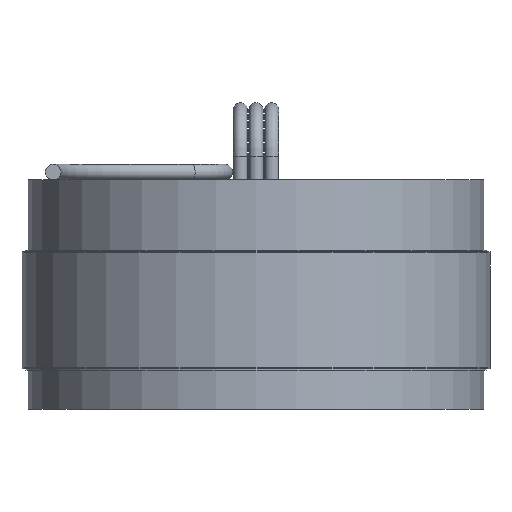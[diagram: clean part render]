
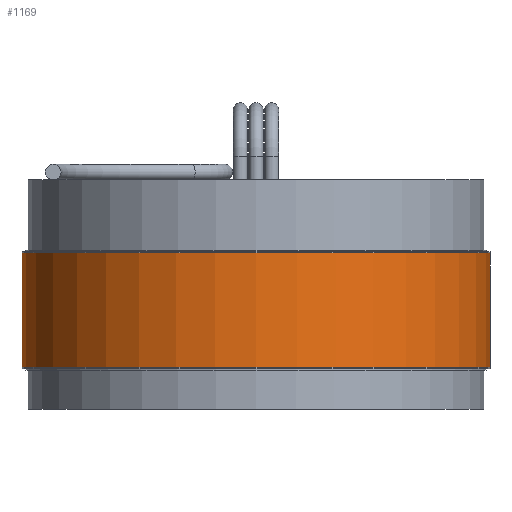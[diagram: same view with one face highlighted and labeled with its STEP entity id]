
A CAD part, front view. The second image highlights one B-rep face of the part: STEP entity #1169.
In plain terms, the highlighted cylindrical face has radius 38.1 mm (diameter 76.2 mm), a full revolution.
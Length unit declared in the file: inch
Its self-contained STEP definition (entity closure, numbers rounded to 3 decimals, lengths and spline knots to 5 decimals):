
#20 = CARTESIAN_POINT ( 'NONE',  ( 0., 0., -0.36713 ) ) ;
#44 = DIRECTION ( 'NONE',  ( 0., 0., 1. ) ) ;
#127 = CARTESIAN_POINT ( 'NONE',  ( 0., 0., -0.385 ) ) ;
#146 = CARTESIAN_POINT ( 'NONE',  ( 0., 0., 0.36713 ) ) ;
#344 = AXIS2_PLACEMENT_3D ( 'NONE', #127, #347, #799 ) ;
#347 = DIRECTION ( 'NONE',  ( 0., 0., 1. ) ) ;
#497 = CARTESIAN_POINT ( 'NONE',  ( 1.5, 0., 0.36713 ) ) ;
#579 = FACE_OUTER_BOUND ( 'NONE', #1400, .T. ) ;
#616 = VERTEX_POINT ( 'NONE', #1025 ) ;
#637 = EDGE_CURVE ( 'NONE', #616, #616, #1310, .T. ) ;
#696 = EDGE_LOOP ( 'NONE', ( #1109 ) ) ;
#731 = VERTEX_POINT ( 'NONE', #497 ) ;
#799 = DIRECTION ( 'NONE',  ( 1., 0., 0. ) ) ;
#819 = DIRECTION ( 'NONE',  ( 0., 0., 1. ) ) ;
#879 = AXIS2_PLACEMENT_3D ( 'NONE', #20, #819, #1144 ) ;
#946 = CYLINDRICAL_SURFACE ( 'NONE', #344, 1.5 ) ;
#1025 = CARTESIAN_POINT ( 'NONE',  ( 1.5, 0., -0.36713 ) ) ;
#1109 = ORIENTED_EDGE ( 'NONE', *, *, #637, .T. ) ;
#1129 = ORIENTED_EDGE ( 'NONE', *, *, #1352, .F. ) ;
#1136 = DIRECTION ( 'NONE',  ( 1., 0., 0. ) ) ;
#1144 = DIRECTION ( 'NONE',  ( 1., 0., 0. ) ) ;
#1169 = ADVANCED_FACE ( 'NONE', ( #579, #1305 ), #946, .T. ) ;
#1203 = CIRCLE ( 'NONE', #1353, 1.5 ) ;
#1305 = FACE_OUTER_BOUND ( 'NONE', #696, .T. ) ;
#1310 = CIRCLE ( 'NONE', #879, 1.5 ) ;
#1352 = EDGE_CURVE ( 'NONE', #731, #731, #1203, .T. ) ;
#1353 = AXIS2_PLACEMENT_3D ( 'NONE', #146, #44, #1136 ) ;
#1400 = EDGE_LOOP ( 'NONE', ( #1129 ) ) ;
